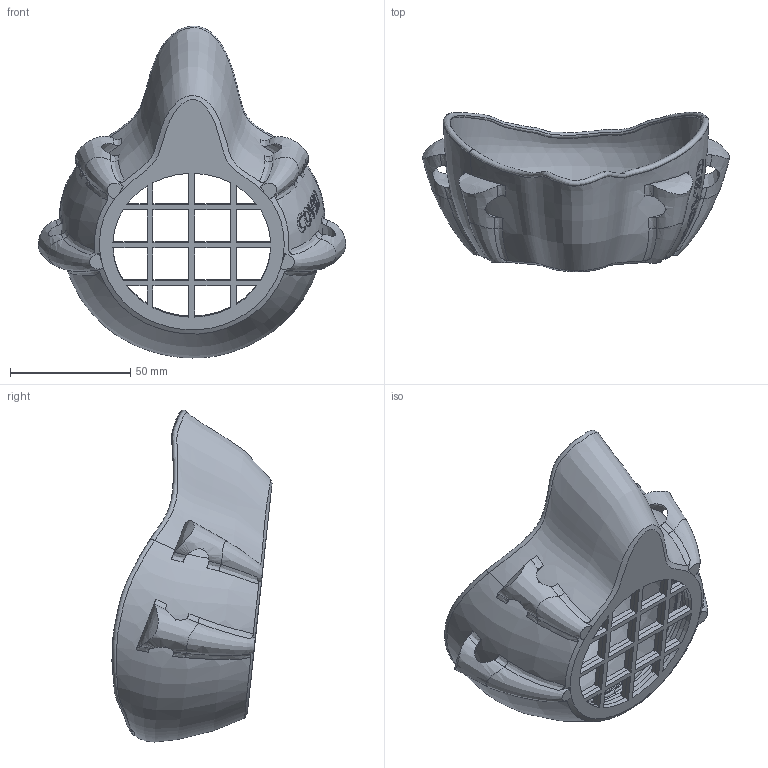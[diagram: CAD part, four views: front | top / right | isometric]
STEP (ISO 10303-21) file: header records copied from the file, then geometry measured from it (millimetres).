
FILE_DESCRIPTION(/* description */ (''),/* implementation_level */ '2;1');
FILE_NAME(/* name */ 'L-MEDI~2',/* time_stamp */ '2020-04-10T21:43:56+03:00',/* author */ (''),/* organization */ (''),/* preprocessor_version */ 'ST-DEVELOPER v16.5',/* originating_system */ '',/* authorisation */ '');
FILE_SCHEMA (('AUTOMOTIVE_DESIGN'));
Length unit declared in the file: millimetre
Products named in the file (1): Document
Bounding box: 127.53 x 66.44 x 137.81 mm (x, y, z)
Volume: 61682.2 mm3; surface area: 50887.9 mm2
Topology: 1 solids, 1 shells, 312 faces, 797 edges, 489 vertices
Faces by surface type: bspline 209, plane 103
Entity records: 184217 total; most frequent: CARTESIAN_POINT 179229, ORIENTED_EDGE 1594, EDGE_CURVE 797, B_SPLINE_CURVE_WITH_KNOTS 625, VERTEX_POINT 489, EDGE_LOOP 354, ADVANCED_FACE 312, FACE_OUTER_BOUND 312
